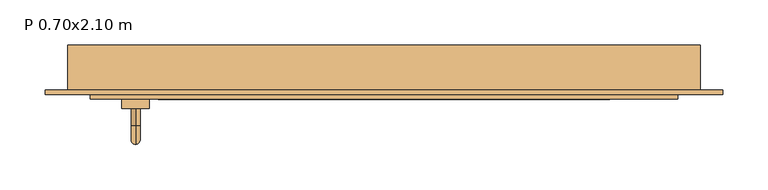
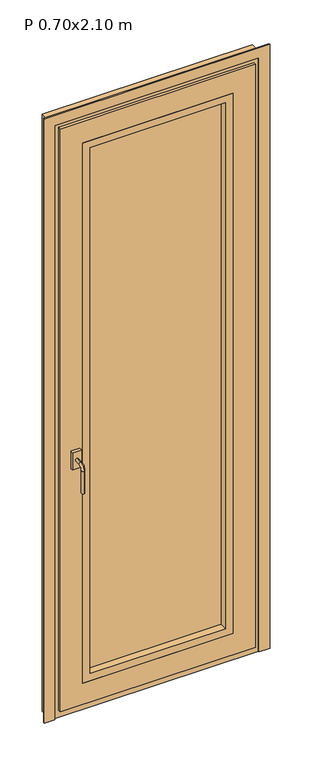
"""IFC4 building model written with IfcOpenShell, lengths in millimetres: door geometry, Balconera practicable, 1 hoja : P 0.70x2.10 m."""

from ifc_helpers import new_model, si_unit, point, frame, origin, place, context, project, spatial, polyline, circle_curve, ellipse_curve, trimmed, outline, extrude, faceted_brep, source, transform, mapped, element, save
from ifc_brep_helpers import plane_surface, cylinder_surface, revolved_surface, advanced_brep


def p_0_70x2_10_m_3c21dbf0(model_context):
    return source(origin(), model_context, "Body", "SolidModel", [
        advanced_brep(
        [(-275.0, -95.0, 905.0), (-275.0, -95.0, 895.0), (-275.0, -114.0, 895.0), (-275.0, -114.0, 905.0), (-275.0, -125.0, 884.0), (-275.0, -135.0, 884.0), (-275.0, -135.0, 805.0), (-275.0, -125.0, 805.0), (-290.0, -95.0, 930.0), (-290.0, -95.0, 870.0), (-260.0, -95.0, 870.0), (-260.0, -95.0, 930.0), (-290.0, -85.0, 930.0), (-260.0, -85.0, 930.0), (-260.0, -85.0, 870.0), (-290.0, -85.0, 870.0)],
        [
            (0, 1, circle_curve(frame((-275.0, -95.0, 900.0), z_axis=(0.0, -1.0, 0.0), x_axis=(0.0, 0.0, -1.0)), 5.0)),
            (1, 2),
            (2, 3, circle_curve(frame((-275.0, -114.0, 900.0), z_axis=(0.0, 1.0, 0.0), x_axis=(0.0, 0.0, -1.0)), 5.0)),
            (3, 0),
            (3, 2, circle_curve(frame((-275.0, -114.0, 900.0), z_axis=(0.0, 1.0, 0.0), x_axis=(0.0, 0.0, -1.0)), 5.0)),
            (1, 0, circle_curve(frame((-275.0, -95.0, 900.0), z_axis=(0.0, -1.0, 0.0), x_axis=(0.0, 0.0, -1.0)), 5.0)),
            (2, 4, circle_curve(frame((-275.0, -114.0, 884.0), z_axis=(1.0, 0.0, 0.0), x_axis=(0.0, 0.0, 1.0)), 11.0)),
            (4, 5, circle_curve(frame((-275.0, -130.0, 884.0), z_axis=(0.0, 0.0, 1.0), x_axis=(0.0, 1.0, 0.0)), 5.0)),
            (5, 3, circle_curve(frame((-275.0, -114.0, 884.0), z_axis=(-1.0, 0.0, 0.0), x_axis=(0.0, 0.0, 1.0)), 21.0)),
            (5, 4, circle_curve(frame((-275.0, -130.0, 884.0), z_axis=(0.0, 0.0, 1.0), x_axis=(0.0, 1.0, 0.0)), 5.0)),
            (6, 7, circle_curve(frame((-275.0, -130.0, 805.0), z_axis=(0.0, 0.0, -1.0), x_axis=(0.0, 1.0, 0.0)), 5.0)),
            (7, 6, circle_curve(frame((-275.0, -130.0, 805.0), z_axis=(0.0, 0.0, -1.0), x_axis=(0.0, 1.0, 0.0)), 5.0)),
            (4, 7),
            (6, 5),
            (8, 9),
            (9, 10),
            (10, 11),
            (11, 8),
            (12, 13),
            (13, 14),
            (14, 15),
            (15, 12),
            (11, 13),
            (12, 8),
            (10, 14),
            (9, 15),
        ],
        [
            cylinder_surface(frame((-275.0, -95.0, 900.0), z_axis=(0.0, 1.0, 0.0), x_axis=(0.0, 0.0, -1.0)), 5.0),
            revolved_surface(trimmed(ellipse_curve(frame((-275.0, -114.0, 900.0), z_axis=(0.0, -1.0, 0.0), x_axis=(0.0, 0.0, -1.0)), 5.0, 5.0), [point((-275.0, -114.0, 905.0))], [point((-275.0, -114.0, 895.0))], True, "CARTESIAN"), (-275.0, -114.0, 884.0), (-1.0, 0.0, 0.0)),
            revolved_surface(trimmed(ellipse_curve(frame((-275.0, -114.0, 900.0), z_axis=(0.0, -1.0, 0.0), x_axis=(0.0, 0.0, -1.0)), 5.0, 5.0), [point((-275.0, -114.0, 895.0))], [point((-275.0, -114.0, 905.0))], True, "CARTESIAN"), (-275.0, -114.0, 884.0), (-1.0, 0.0, 0.0)),
            plane_surface(frame((-275.0, -130.0, 805.0), z_axis=(0.0, 0.0, -1.0), x_axis=(-1.0, 0.0, 0.0))),
            cylinder_surface(frame((-275.0, -130.0, 884.0), z_axis=(0.0, 0.0, 1.0), x_axis=(0.0, 1.0, 0.0)), 5.0),
            plane_surface(frame((-260.0, -95.0, 930.0), z_axis=(0.0, -1.0, 0.0), x_axis=(1.0, 0.0, 0.0))),
            plane_surface(frame((-260.0, -85.0, 930.0), z_axis=(0.0, 1.0, 0.0), x_axis=(-1.0, 0.0, 0.0))),
            plane_surface(frame((-290.0, -95.0, 930.0), z_axis=(0.0, 0.0, 1.0), x_axis=(0.0, 1.0, 0.0))),
            plane_surface(frame((-260.0, -95.0, 930.0), z_axis=(1.0, 0.0, 0.0), x_axis=(0.0, 1.0, 0.0))),
            plane_surface(frame((-260.0, -95.0, 870.0), z_axis=(0.0, 0.0, -1.0), x_axis=(0.0, 1.0, 0.0))),
            plane_surface(frame((-290.0, -95.0, 870.0), z_axis=(-1.0, 0.0, 0.0), x_axis=(0.0, 1.0, 0.0))),
        ],
        [
            (0, [[1, 2, 3, 4]]),
            (0, [[5, -2, 6, -4]]),
            (1, [[7, 8, 9, -3]]),
            (2, [[-9, 10, -7, -5]]),
            (3, [[11, 12]]),
            (4, [[13, -11, 14, -8]]),
            (4, [[-14, -12, -13, -10]]),
            (5, [[15, 16, 17, 18], [-6, -1]]),
            (6, [[19, 20, 21, 22]]),
            (7, [[23, -19, 24, -18]]),
            (8, [[25, -20, -23, -17]]),
            (9, [[26, -21, -25, -16]]),
            (10, [[-24, -22, -26, -15]]),
        ],
    ),
        extrude(outline(polyline([(240.0, -59.0), (-240.0, -59.0), (-240.0, -45.0), (240.0, -45.0), (240.0, -59.0)])), frame((0.0, 0.0, 110.0), z_axis=(0.0, 0.0, 1.0), x_axis=(1.0, 0.0, 0.0)), (0.0, 0.0, 1.0), 1880.0),
        extrude(outline(polyline([(2000.0, 250.0), (2000.0, -250.0), (100.0, -250.0), (100.0, 250.0), (2000.0, 250.0)]), holes=[polyline([(1975.0, -225.0), (1975.0, 225.0), (125.0, 225.0), (125.0, -225.0), (1975.0, -225.0)])]), frame((0.0, -85.0, 0.0), z_axis=(0.0, 1.0, 0.0), x_axis=(0.0, 0.0, 1.0)), (0.0, 0.0, 1.0), 26.0),
        faceted_brep([(-325.0, -85.0, 2075.0), (325.0, -85.0, 2075.0), (325.0, -75.0, 2075.0), (-325.0, -75.0, 2075.0), (-250.0, -45.0, 2000.0), (250.0, -45.0, 2000.0), (250.0, -85.0, 2000.0), (-250.0, -85.0, 2000.0), (-225.0, -35.0, 1975.0), (225.0, -35.0, 1975.0), (225.0, -45.0, 1975.0), (-225.0, -45.0, 1975.0), (-300.0, -75.0, 2050.0), (300.0, -75.0, 2050.0), (300.0, -35.0, 2050.0), (-300.0, -35.0, 2050.0), (325.0, -85.0, 25.0), (325.0, -75.0, 25.0), (250.0, -45.0, 100.0), (250.0, -85.0, 100.0), (225.0, -35.0, 125.0), (225.0, -45.0, 125.0), (300.0, -75.0, 50.0), (300.0, -35.0, 50.0), (-325.0, -85.0, 25.0), (-325.0, -75.0, 25.0), (-250.0, -45.0, 100.0), (-250.0, -85.0, 100.0), (-225.0, -35.0, 125.0), (-225.0, -45.0, 125.0), (-300.0, -75.0, 50.0), (-300.0, -35.0, 50.0)], [[[0, 1, 2, 3]], [[4, 5, 6, 7]], [[8, 9, 10, 11]], [[12, 13, 14, 15]], [[1, 16, 17, 2]], [[5, 18, 19, 6]], [[9, 20, 21, 10]], [[13, 22, 23, 14]], [[16, 24, 25, 17]], [[18, 26, 27, 19]], [[20, 28, 29, 21]], [[22, 30, 31, 23]], [[24, 0, 3, 25]], [[1, 0, 24, 16], [7, 6, 19, 27]], [[26, 4, 7, 27]], [[5, 4, 26, 18], [11, 10, 21, 29]], [[28, 8, 11, 29]], [[15, 14, 23, 31], [9, 8, 28, 20]], [[30, 12, 15, 31]], [[3, 2, 17, 25], [13, 12, 30, 22]]]),
        faceted_brep([(-350.0, -75.0, 2100.0), (350.0, -75.0, 2100.0), (350.0, -25.0, 2100.0), (-350.0, -25.0, 2100.0), (-315.0, -35.0, 2065.0), (315.0, -35.0, 2065.0), (315.0, -75.0, 2065.0), (-315.0, -75.0, 2065.0), (-290.0, -25.0, 2040.0), (290.0, -25.0, 2040.0), (290.0, -35.0, 2040.0), (-290.0, -35.0, 2040.0), (350.0, -75.0, 0.0), (350.0, -25.0, 0.0), (315.0, -35.0, 35.0), (315.0, -75.0, 35.0), (290.0, -25.0, 60.0), (290.0, -35.0, 60.0), (-350.0, -75.0, 0.0), (-350.0, -25.0, 0.0), (-315.0, -35.0, 35.0), (-315.0, -75.0, 35.0), (-290.0, -25.0, 60.0), (-290.0, -35.0, 60.0)], [[[0, 1, 2, 3]], [[4, 5, 6, 7]], [[8, 9, 10, 11]], [[1, 12, 13, 2]], [[5, 14, 15, 6]], [[9, 16, 17, 10]], [[12, 18, 19, 13]], [[14, 20, 21, 15]], [[16, 22, 23, 17]], [[18, 0, 3, 19]], [[1, 0, 18, 12], [7, 6, 15, 21]], [[20, 4, 7, 21]], [[5, 4, 20, 14], [11, 10, 17, 23]], [[22, 8, 11, 23]], [[3, 2, 13, 19], [9, 8, 22, 16]]]),
        extrude(outline(polyline([(0.0, -340.0), (2090.0, -340.0), (2090.0, 340.0), (0.0, 340.0), (0.0, 375.0), (2125.0, 375.0), (2125.0, -375.0), (0.0, -375.0), (0.0, -340.0)])), frame((0.0, -80.0, 0.0), z_axis=(0.0, 1.0, 0.0), x_axis=(0.0, 0.0, 1.0)), (0.0, 0.0, 1.0), 5.0),
    ])


if __name__ == "__main__":
    model = new_model("IFC4")
    model_context = context("Model", 3, world=origin())
    ifc_project = project(units=[si_unit("LENGTHUNIT", "METRE", prefix="MILLI")], contexts=[model_context])
    site = spatial("IfcSite", under=ifc_project)
    building = spatial("IfcBuilding", under=site)
    placement = place(None, origin())
    p_0_70x2_10_m_shape = p_0_70x2_10_m_3c21dbf0(model_context)
    element("IfcDoor", 1, ObjectType="Balconera practicable, 1 hoja : P 0.70x2.10 m", at=placement, inside=building, context=model_context, shape_type="MappedRepresentation", body=[
        mapped(p_0_70x2_10_m_shape, transform((0.0, 0.0, 0.0), x_axis=(1.0, 0.0, 0.0), y_axis=(0.0, 1.0, 0.0), z_axis=(0.0, 0.0, 1.0))),
    ])
    save(model, "model.ifc")
